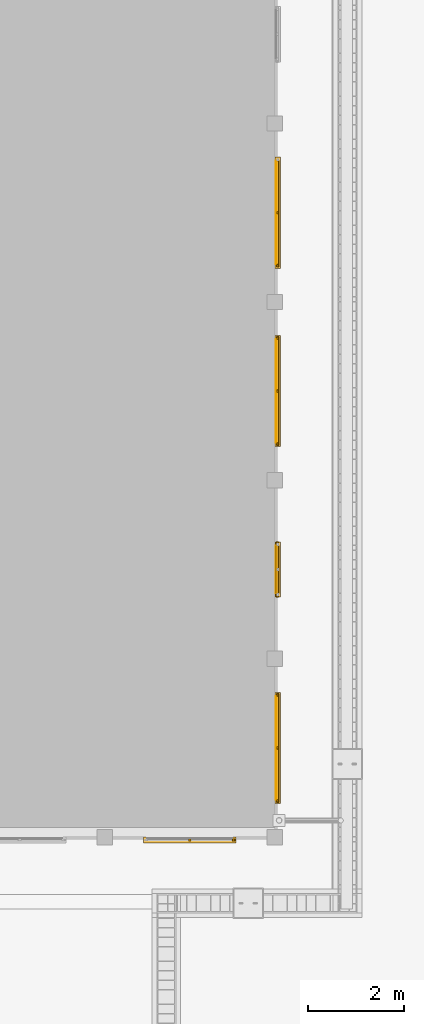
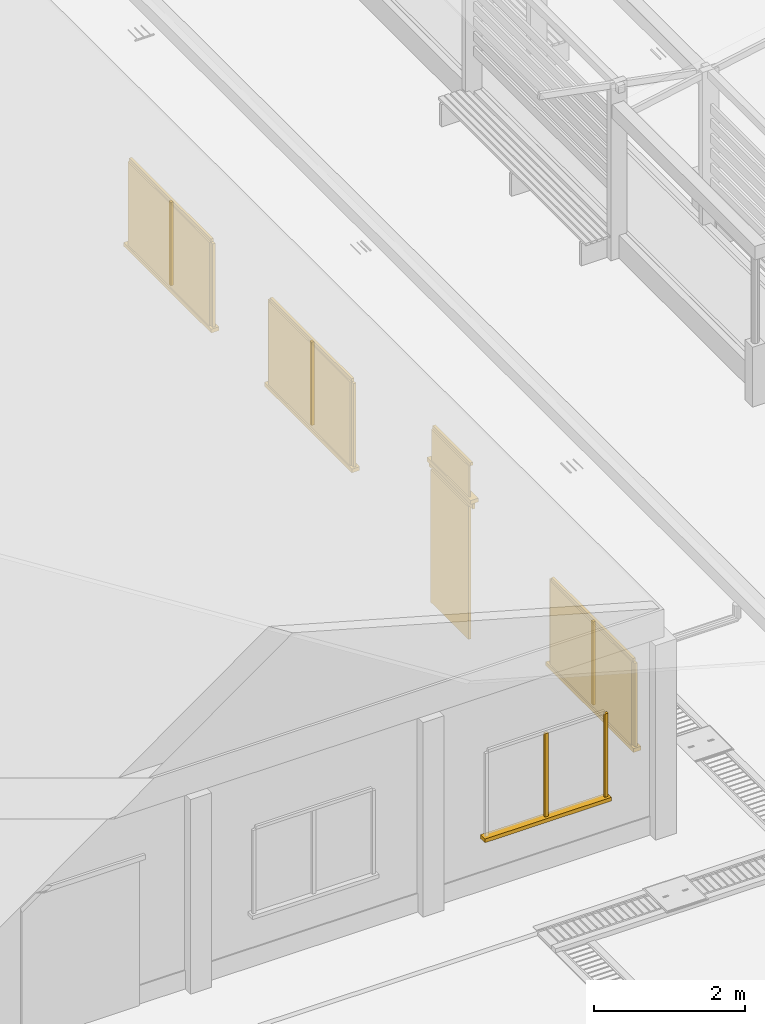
# One storey, part 38 of 151: 23 windows, 2 doors.
"""IFC2X3 building model written with IfcOpenShell, lengths in metres."""

import ifcopenshell
import ifcopenshell.guid

model = None  # the IFC model being written
_history = None  # IfcOwnerHistory: only IFC2X3 demands one
_inside = {}  # id of a spatial element -> (the spatial element, [elements in it])
_under = {}  # id of a project, library or spatial element -> (it, [spatial elements below it])
_declared = {}  # id of a project -> (the project, [libraries it declares])
_typed = {}  # id of a type object -> (the type object, [elements of that type])
_made_of = {}  # id of a material, layer set ... -> (it, [elements and type objects made of it])


def new_model(schema):
    """Start an empty IFC model of exactly this schema.

    Asked for "IFC4X3", IfcOpenShell would pick the latest addendum, in which some entities
    have other attributes; the version numbers below select the first issue.
    IFC2X3 requires an IfcOwnerHistory on every rooted entity: one is made here for all.
    """
    global model, _history
    if schema == "IFC4X3":
        model = ifcopenshell.file(schema_version=(4, 3, 0, 0))
    else:
        model = ifcopenshell.file(schema=schema)
    _inside.clear()
    _under.clear()
    _declared.clear()
    _typed.clear()
    _made_of.clear()
    _history = None
    if model.schema == "IFC2X3":
        org = make("IfcOrganization", Name="unknown")
        user = make(
            "IfcPersonAndOrganization",
            ThePerson=make("IfcPerson", FamilyName="unknown"),
            TheOrganization=org,
        )
        app = make(
            "IfcApplication",
            ApplicationDeveloper=org,
            Version="unknown",
            ApplicationFullName="unknown",
            ApplicationIdentifier="unknown",
        )
        _history = make(
            "IfcOwnerHistory",
            OwningUser=user,
            OwningApplication=app,
            ChangeAction="ADDED",
            CreationDate=0,
        )
    return model


def make(cls, **values):
    """One entity of the class cls with the attributes given. An attribute that is None is left unset."""
    return model.create_entity(
        cls, **{name: value for name, value in values.items() if value is not None}
    )


def rooted(cls, **values):
    """An entity with a GlobalId (a new one), such as an element, a storey or a relation."""
    return make(cls, GlobalId=ifcopenshell.guid.new(), OwnerHistory=_history, **values)


def si_unit(unit_type, name, prefix=None):
    """IfcSIUnit, for example si_unit("LENGTHUNIT", "METRE", prefix="MILLI")."""
    return make("IfcSIUnit", UnitType=unit_type, Prefix=prefix, Name=name)


def assignment(units):
    """IfcUnitAssignment: the units of a project."""
    return None if units is None else make("IfcUnitAssignment", Units=units)


def point(xyz):
    """IfcCartesianPoint."""
    return None if xyz is None else make("IfcCartesianPoint", Coordinates=xyz)


def direction(xyz):
    """IfcDirection."""
    return None if xyz is None else make("IfcDirection", DirectionRatios=xyz)


def frame(location, z_axis=None, x_axis=None):
    """IfcAxis2Placement3D, a coordinate frame: its origin and axes. An axis left out is left unset."""
    return make(
        "IfcAxis2Placement3D",
        Location=point(location),
        Axis=direction(z_axis),
        RefDirection=direction(x_axis),
    )


def origin():
    """The frame at (0, 0, 0) with its axes left unset."""
    return frame((0.0, 0.0, 0.0))


def origin_with_axes():
    """The frame at (0, 0, 0) with the z axis (0, 0, 1) and the x axis (1, 0, 0) written out."""
    return frame((0.0, 0.0, 0.0), z_axis=(0.0, 0.0, 1.0), x_axis=(1.0, 0.0, 0.0))


def place(relative_to, where):
    """IfcLocalPlacement: puts the frame where relative to a parent placement (None: the world)."""
    return make(
        "IfcLocalPlacement", PlacementRelTo=relative_to, RelativePlacement=where
    )


def context(
    kind, dimensions, precision=None, world=None, true_north=None, identifier=None
):
    """IfcGeometricRepresentationContext, for example the 3D "Model" context."""
    return make(
        "IfcGeometricRepresentationContext",
        ContextIdentifier=identifier,
        ContextType=kind,
        CoordinateSpaceDimension=dimensions,
        Precision=precision,
        WorldCoordinateSystem=world,
        TrueNorth=true_north,
    )


def subcontext(parent, identifier, kind, view, scale=None):
    """IfcGeometricRepresentationSubContext, for example "Body" below "Model"."""
    return make(
        "IfcGeometricRepresentationSubContext",
        ContextIdentifier=identifier,
        ContextType=kind,
        ParentContext=parent,
        TargetScale=scale,
        TargetView=view,
    )


def project(units=None, contexts=None):
    """IfcProject with its units and contexts."""
    return rooted(
        "IfcProject",
        Name="project",
        RepresentationContexts=contexts,
        UnitsInContext=assignment(units),
    )


def spatial(cls, under=None, at=None, **own):
    """A site, building, storey or space (cls), placed at a placement, below another one or the project."""
    s = rooted(cls, ObjectPlacement=at, **own)
    if under is not None:
        _under.setdefault(under.id(), (under, []))[1].append(s)
    return s


def faces_of(points, faces, orient=None, outer=None):
    """IfcFace entities. A face is a list of loops; a loop is a list of indices into points, from 0.

    orient and outer hold one flag for each loop. By default every Orientation is true, the
    first loop of a face is its IfcFaceOuterBound and the others are IfcFaceBound.
    """
    made = []
    for i, loops in enumerate(faces):
        bounds = []
        for j, loop in enumerate(loops):
            is_outer = j == 0 if outer is None else outer[i][j]
            bounds.append(
                make(
                    "IfcFaceOuterBound" if is_outer else "IfcFaceBound",
                    Bound=make("IfcPolyLoop", Polygon=[points[k] for k in loop]),
                    Orientation=True if orient is None else orient[i][j],
                )
            )
        made.append(make("IfcFace", Bounds=bounds))
    return made


def faceted_brep(points, faces, orient=None, outer=None, voids=None):
    """IfcFacetedBrep: a solid bounded by flat faces; with voids (closed shells), ...WithVoids."""
    shared = [point(p) for p in points]
    hull = make("IfcClosedShell", CfsFaces=faces_of(shared, faces, orient, outer))
    if voids is None:
        return make("IfcFacetedBrep", Outer=hull)
    return make(
        "IfcFacetedBrepWithVoids",
        Outer=hull,
        Voids=[
            make(cls, CfsFaces=faces_of(shared, fs, o, b)) for cls, fs, o, b in voids
        ],
    )


def shape(context_of_items, identifier, shape_type, items):
    """IfcShapeRepresentation: the items that make up one representation, for example the "Body"."""
    return make(
        "IfcShapeRepresentation",
        ContextOfItems=context_of_items,
        RepresentationIdentifier=identifier,
        RepresentationType=shape_type,
        Items=items,
    )


def made_of(thing, what):
    """Note that an element or type object is made of a material, layer set ...; save() writes the relation."""
    if what is not None:
        _made_of.setdefault(what.id(), (what, []))[1].append(thing)
    return thing


def element(
    cls,
    number,
    at=None,
    inside=None,
    cuts=None,
    type_object=None,
    material=None,
    context=None,
    identifier="Body",
    shape_type=None,
    held_by="IfcProductDefinitionShape",
    body=None,
    shapes=None,
    **own,
):
    """One element of the class cls, such as IfcWall. Its Tag is "e" and its number.

    at: its placement. inside: the storey or other place that contains it. cuts: it is an
    opening in that element (IfcRelVoidsElement). A single representation is given by context,
    identifier, shape_type and body (its items); several are given by shapes. held_by: the class
    of the entity that holds the representations. save() writes the other relations.
    """
    e = rooted(cls, Tag="e%d" % number, ObjectPlacement=at, **own)
    if body is not None:
        shapes = [shape(context, identifier, shape_type, body)]
    if shapes is not None:
        e.Representation = make(held_by, Representations=shapes)
    if inside is not None:
        _inside.setdefault(inside.id(), (inside, []))[1].append(e)
    if cuts is not None:
        rooted(
            "IfcRelVoidsElement", RelatingBuildingElement=cuts, RelatedOpeningElement=e
        )
    if type_object is not None:
        _typed.setdefault(type_object.id(), (type_object, []))[1].append(e)
    return made_of(e, material)


def aggregate(whole, parts):
    """IfcRelAggregates: a whole, such as a stair, and the parts it consists of."""
    return rooted("IfcRelAggregates", RelatingObject=whole, RelatedObjects=parts)


def save(model, path):
    """Write the relations noted so far, then the file.

    IfcRelAggregates (storeys below a building ...), IfcRelContainedInSpatialStructure (elements
    in a storey), IfcRelDefinesByType, IfcRelAssociatesMaterial and IfcRelDeclares: one each for
    every whole, place, type object, material and project.
    """
    for whole, parts in _under.values():
        aggregate(whole, parts)
    for where, things in _inside.values():
        rooted(
            "IfcRelContainedInSpatialStructure",
            RelatedElements=things,
            RelatingStructure=where,
        )
    for kind, things in _typed.values():
        rooted("IfcRelDefinesByType", RelatedObjects=things, RelatingType=kind)
    for what, things in _made_of.values():
        rooted("IfcRelAssociatesMaterial", RelatedObjects=things, RelatingMaterial=what)
    for by, libraries in _declared.values():
        rooted("IfcRelDeclares", RelatingContext=by, RelatedDefinitions=libraries)
    model.write(path)


model = new_model("IFC2X3")

# Units and contexts
model_context = context("Model", 3, precision=1e-05, world=origin_with_axes())
body_context = subcontext(model_context, "Body", "Model", "MODEL_VIEW")
ifc_project = project(units=[si_unit("LENGTHUNIT", "METRE"), si_unit("AREAUNIT", "SQUARE_METRE"), si_unit("VOLUMEUNIT", "CUBIC_METRE"), si_unit("PLANEANGLEUNIT", "RADIAN")], contexts=[model_context])

# Site, building, storey
site_placement = place(None, origin_with_axes())
site = spatial("IfcSite", under=ifc_project, at=site_placement, Name="Predio Los Mangos - Morales, San Martín", CompositionType="ELEMENT")
building_placement = place(site_placement, origin())
building = spatial("IfcBuilding", under=site, at=building_placement, Name="Hogar de Refugio Temporal", CompositionType="ELEMENT")
storey_placement = place(building_placement, origin())
storey = spatial("IfcBuildingStorey", under=building, at=storey_placement, Name="NIVEL 1 (NPT +0.00)", CompositionType="ELEMENT", Elevation=0.0)

# Windows
window_1_placement = place(storey_placement, origin())
element("IfcWindow", 1, at=window_1_placement, inside=storey, Name="E-01_vg4_m", ObjectType="Ventana", context=body_context, shape_type="Brep", body=[
    faceted_brep([(30.71, 26.22, 1.05), (30.71, 26.26, 1.05), (30.76, 26.26, 1.05), (30.76, 26.22, 1.05), (30.71, 26.22, 2.4), (30.76, 26.22, 2.4), (30.76, 26.26, 2.4), (30.71, 26.26, 2.4)], [[[0, 1, 2, 3]], [[4, 5, 6, 7]], [[0, 3, 5, 4]], [[3, 2, 6, 5]], [[2, 1, 7, 6]], [[1, 0, 4, 7]]]),
])
window_2_placement = place(storey_placement, origin())
element("IfcWindow", 2, at=window_2_placement, inside=storey, Name="E-01_vg4_m", ObjectType="Ventana", context=body_context, shape_type="Brep", body=[
    faceted_brep([(29.795, 26.22, 1.05), (29.795, 26.26, 1.05), (29.845, 26.26, 1.05), (29.845, 26.22, 1.05), (29.795, 26.22, 2.4), (29.845, 26.22, 2.4), (29.845, 26.26, 2.4), (29.795, 26.26, 2.4)], [[[0, 1, 2, 3]], [[4, 5, 6, 7]], [[0, 3, 5, 4]], [[3, 2, 6, 5]], [[2, 1, 7, 6]], [[1, 0, 4, 7]]]),
])
window_3_placement = place(storey_placement, origin())
element("IfcWindow", 3, at=window_3_placement, inside=storey, Name="E-01_vg4_alf", ObjectType="Ventana", context=body_context, shape_type="Brep", body=[
    faceted_brep([(28.85, 26.3, 0.99), (28.85, 26.18, 0.99), (30.79, 26.18, 0.99), (30.79, 26.3, 0.99), (28.85, 26.3, 1.05), (30.79, 26.3, 1.05), (30.79, 26.18, 1.05), (28.85, 26.18, 1.05)], [[[0, 1, 2, 3]], [[4, 5, 6, 7]], [[0, 3, 5, 4]], [[3, 2, 6, 5]], [[2, 1, 7, 6]], [[1, 0, 4, 7]]]),
])
window_4_placement = place(storey_placement, origin())
element("IfcWindow", 4, at=window_4_placement, inside=storey, Name="E-01_v0_vid", ObjectType="Ventana", context=body_context, shape_type="Brep", body=[
    faceted_brep([(31.62, 27.084, 1.05), (31.62, 29.2493, 1.05), (31.64, 29.2493, 1.05), (31.64, 27.084, 1.05), (31.62, 27.084, 2.4), (31.64, 27.084, 2.4), (31.64, 29.2493, 2.4), (31.62, 29.2493, 2.4)], [[[0, 1, 2, 3]], [[4, 5, 6, 7]], [[0, 3, 5, 4]], [[3, 2, 6, 5]], [[2, 1, 7, 6]], [[1, 0, 4, 7]]]),
])
window_5_placement = place(storey_placement, origin())
element("IfcWindow", 5, at=window_5_placement, inside=storey, Name="E-01_v0_m", ObjectType="Ventana", context=body_context, shape_type="Brep", body=[
    faceted_brep([(31.64, 27.034, 1.05), (31.64, 27.084, 1.05), (31.68, 27.084, 1.05), (31.68, 27.034, 1.05), (31.64, 27.034, 2.4), (31.68, 27.034, 2.4), (31.68, 27.084, 2.4), (31.64, 27.084, 2.4)], [[[0, 1, 2, 3]], [[4, 5, 6, 7]], [[0, 3, 5, 4]], [[3, 2, 6, 5]], [[2, 1, 7, 6]], [[1, 0, 4, 7]]]),
])
window_6_placement = place(storey_placement, origin())
element("IfcWindow", 6, at=window_6_placement, inside=storey, Name="E-01_v0_m", ObjectType="Ventana", context=body_context, shape_type="Brep", body=[
    faceted_brep([(31.64, 29.2493, 1.05), (31.64, 29.2993, 1.05), (31.68, 29.2993, 1.05), (31.68, 29.2493, 1.05), (31.64, 29.2493, 2.4), (31.68, 29.2493, 2.4), (31.68, 29.2993, 2.4), (31.64, 29.2993, 2.4)], [[[0, 1, 2, 3]], [[4, 5, 6, 7]], [[0, 3, 5, 4]], [[3, 2, 6, 5]], [[2, 1, 7, 6]], [[1, 0, 4, 7]]]),
])
window_7_placement = place(storey_placement, origin())
element("IfcWindow", 7, at=window_7_placement, inside=storey, Name="E-01_v0_m", ObjectType="Ventana", context=body_context, shape_type="Brep", body=[
    faceted_brep([(31.64, 27.084, 2.4), (31.64, 29.2493, 2.4), (31.68, 29.2493, 2.4), (31.68, 27.084, 2.4), (31.64, 27.084, 2.45), (31.68, 27.084, 2.45), (31.68, 29.2493, 2.45), (31.64, 29.2493, 2.45)], [[[0, 1, 2, 3]], [[4, 5, 6, 7]], [[0, 3, 5, 4]], [[3, 2, 6, 5]], [[2, 1, 7, 6]], [[1, 0, 4, 7]]]),
])
window_8_placement = place(storey_placement, origin())
element("IfcWindow", 8, at=window_8_placement, inside=storey, Name="E-01_v0_m", ObjectType="Ventana", context=body_context, shape_type="Brep", body=[
    faceted_brep([(31.64, 28.1417, 1.05), (31.64, 28.1917, 1.05), (31.68, 28.1917, 1.05), (31.68, 28.1417, 1.05), (31.64, 28.1417, 2.4), (31.68, 28.1417, 2.4), (31.68, 28.1917, 2.4), (31.64, 28.1917, 2.4)], [[[0, 1, 2, 3]], [[4, 5, 6, 7]], [[0, 3, 5, 4]], [[3, 2, 6, 5]], [[2, 1, 7, 6]], [[1, 0, 4, 7]]]),
])
window_9_placement = place(storey_placement, origin())
element("IfcWindow", 9, at=window_9_placement, inside=storey, Name="E-01_v0_alf", ObjectType="Ventana", context=body_context, shape_type="Brep", body=[
    faceted_brep([(31.6, 27.004, 0.99), (31.6, 29.3293, 0.99), (31.72, 29.3293, 0.99), (31.72, 27.004, 0.99), (31.6, 27.004, 1.05), (31.72, 27.004, 1.05), (31.72, 29.3293, 1.05), (31.6, 29.3293, 1.05)], [[[0, 1, 2, 3]], [[4, 5, 6, 7]], [[0, 3, 5, 4]], [[3, 2, 6, 5]], [[2, 1, 7, 6]], [[1, 0, 4, 7]]]),
])

# Doors
door_1_placement = place(storey_placement, origin())
element("IfcDoor", 10, at=door_1_placement, inside=storey, Name="E-01_p1", ObjectType="Puerta", context=body_context, shape_type="Brep", body=[
    faceted_brep([(31.61, 31.4, 0.15), (31.61, 32.4, 0.15), (31.65, 32.4, 0.15), (31.65, 31.4, 0.15), (31.61, 31.4, 2.3), (31.65, 31.4, 2.3), (31.65, 32.4, 2.3), (31.61, 32.4, 2.3)], [[[0, 1, 2, 3]], [[4, 5, 6, 7]], [[0, 3, 5, 4]], [[3, 2, 6, 5]], [[2, 1, 7, 6]], [[1, 0, 4, 7]]]),
])
door_2_placement = place(storey_placement, origin())
element("IfcDoor", 11, at=door_2_placement, inside=storey, Name="E-01_p1_marco", ObjectType="Puerta", context=body_context, shape_type="Brep", body=[
    faceted_brep([(31.63, 31.32, 2.3), (31.63, 32.48, 2.3), (31.67, 32.48, 2.3), (31.67, 31.32, 2.3), (31.63, 31.32, 2.38), (31.67, 31.32, 2.38), (31.67, 32.48, 2.38), (31.63, 32.48, 2.38)], [[[0, 1, 2, 3]], [[4, 5, 6, 7]], [[0, 3, 5, 4]], [[3, 2, 6, 5]], [[2, 1, 7, 6]], [[1, 0, 4, 7]]]),
])

# Windows
window_10_placement = place(storey_placement, origin())
element("IfcWindow", 12, at=window_10_placement, inside=storey, Name="E-01_vt1_vid", ObjectType="Ventana", context=body_context, shape_type="Brep", body=[
    faceted_brep([(31.62, 31.4, 2.45), (31.62, 32.4, 2.45), (31.64, 32.4, 2.45), (31.64, 31.4, 2.45), (31.62, 31.4, 2.95), (31.64, 31.4, 2.95), (31.64, 32.4, 2.95), (31.62, 32.4, 2.95)], [[[0, 1, 2, 3]], [[4, 5, 6, 7]], [[0, 3, 5, 4]], [[3, 2, 6, 5]], [[2, 1, 7, 6]], [[1, 0, 4, 7]]]),
])
window_11_placement = place(storey_placement, origin())
element("IfcWindow", 13, at=window_11_placement, inside=storey, Name="E-01_vt1_m", ObjectType="Ventana", context=body_context, shape_type="Brep", body=[
    faceted_brep([(31.64, 31.4, 2.95), (31.64, 32.4, 2.95), (31.68, 32.4, 2.95), (31.68, 31.4, 2.95), (31.64, 31.4, 3.0), (31.68, 31.4, 3.0), (31.68, 32.4, 3.0), (31.64, 32.4, 3.0)], [[[0, 1, 2, 3]], [[4, 5, 6, 7]], [[0, 3, 5, 4]], [[3, 2, 6, 5]], [[2, 1, 7, 6]], [[1, 0, 4, 7]]]),
])
window_12_placement = place(storey_placement, origin())
element("IfcWindow", 14, at=window_12_placement, inside=storey, Name="E-01_vt1_alf", ObjectType="Ventana", context=body_context, shape_type="Brep", body=[
    faceted_brep([(31.6, 31.32, 2.39), (31.6, 32.48, 2.39), (31.72, 32.48, 2.39), (31.72, 31.32, 2.39), (31.6, 31.32, 2.45), (31.72, 31.32, 2.45), (31.72, 32.48, 2.45), (31.6, 32.48, 2.45)], [[[0, 1, 2, 3]], [[4, 5, 6, 7]], [[0, 3, 5, 4]], [[3, 2, 6, 5]], [[2, 1, 7, 6]], [[1, 0, 4, 7]]]),
])
window_13_placement = place(storey_placement, origin())
element("IfcWindow", 15, at=window_13_placement, inside=storey, Name="E-01_v2_vid", ObjectType="Ventana", context=body_context, shape_type="Brep", body=[
    faceted_brep([(31.62, 34.5507, 1.05), (31.62, 36.716, 1.05), (31.64, 36.716, 1.05), (31.64, 34.5507, 1.05), (31.62, 34.5507, 2.4), (31.64, 34.5507, 2.4), (31.64, 36.716, 2.4), (31.62, 36.716, 2.4)], [[[0, 1, 2, 3]], [[4, 5, 6, 7]], [[0, 3, 5, 4]], [[3, 2, 6, 5]], [[2, 1, 7, 6]], [[1, 0, 4, 7]]]),
])
window_14_placement = place(storey_placement, origin())
element("IfcWindow", 16, at=window_14_placement, inside=storey, Name="E-01_v2_m", ObjectType="Ventana", context=body_context, shape_type="Brep", body=[
    faceted_brep([(31.64, 34.5007, 1.05), (31.64, 34.5507, 1.05), (31.68, 34.5507, 1.05), (31.68, 34.5007, 1.05), (31.64, 34.5007, 2.4), (31.68, 34.5007, 2.4), (31.68, 34.5507, 2.4), (31.64, 34.5507, 2.4)], [[[0, 1, 2, 3]], [[4, 5, 6, 7]], [[0, 3, 5, 4]], [[3, 2, 6, 5]], [[2, 1, 7, 6]], [[1, 0, 4, 7]]]),
])
window_15_placement = place(storey_placement, origin())
element("IfcWindow", 17, at=window_15_placement, inside=storey, Name="E-01_v2_m", ObjectType="Ventana", context=body_context, shape_type="Brep", body=[
    faceted_brep([(31.64, 36.716, 1.05), (31.64, 36.766, 1.05), (31.68, 36.766, 1.05), (31.68, 36.716, 1.05), (31.64, 36.716, 2.4), (31.68, 36.716, 2.4), (31.68, 36.766, 2.4), (31.64, 36.766, 2.4)], [[[0, 1, 2, 3]], [[4, 5, 6, 7]], [[0, 3, 5, 4]], [[3, 2, 6, 5]], [[2, 1, 7, 6]], [[1, 0, 4, 7]]]),
])
window_16_placement = place(storey_placement, origin())
element("IfcWindow", 18, at=window_16_placement, inside=storey, Name="E-01_v2_m", ObjectType="Ventana", context=body_context, shape_type="Brep", body=[
    faceted_brep([(31.64, 34.5507, 2.4), (31.64, 36.716, 2.4), (31.68, 36.716, 2.4), (31.68, 34.5507, 2.4), (31.64, 34.5507, 2.45), (31.68, 34.5507, 2.45), (31.68, 36.716, 2.45), (31.64, 36.716, 2.45)], [[[0, 1, 2, 3]], [[4, 5, 6, 7]], [[0, 3, 5, 4]], [[3, 2, 6, 5]], [[2, 1, 7, 6]], [[1, 0, 4, 7]]]),
])
window_17_placement = place(storey_placement, origin())
element("IfcWindow", 19, at=window_17_placement, inside=storey, Name="E-01_v2_m", ObjectType="Ventana", context=body_context, shape_type="Brep", body=[
    faceted_brep([(31.64, 35.6083, 1.05), (31.64, 35.6583, 1.05), (31.68, 35.6583, 1.05), (31.68, 35.6083, 1.05), (31.64, 35.6083, 2.4), (31.68, 35.6083, 2.4), (31.68, 35.6583, 2.4), (31.64, 35.6583, 2.4)], [[[0, 1, 2, 3]], [[4, 5, 6, 7]], [[0, 3, 5, 4]], [[3, 2, 6, 5]], [[2, 1, 7, 6]], [[1, 0, 4, 7]]]),
])
window_18_placement = place(storey_placement, origin())
element("IfcWindow", 20, at=window_18_placement, inside=storey, Name="E-01_v2_alf", ObjectType="Ventana", context=body_context, shape_type="Brep", body=[
    faceted_brep([(31.6, 34.4707, 0.99), (31.6, 36.796, 0.99), (31.72, 36.796, 0.99), (31.72, 34.4707, 0.99), (31.6, 34.4707, 1.05), (31.72, 34.4707, 1.05), (31.72, 36.796, 1.05), (31.6, 36.796, 1.05)], [[[0, 1, 2, 3]], [[4, 5, 6, 7]], [[0, 3, 5, 4]], [[3, 2, 6, 5]], [[2, 1, 7, 6]], [[1, 0, 4, 7]]]),
])
window_19_placement = place(storey_placement, origin())
element("IfcWindow", 21, at=window_19_placement, inside=storey, Name="E-01_v3_vid", ObjectType="Ventana", context=body_context, shape_type="Brep", body=[
    faceted_brep([(31.62, 38.284, 1.05), (31.62, 40.4493, 1.05), (31.64, 40.4493, 1.05), (31.64, 38.284, 1.05), (31.62, 38.284, 2.4), (31.64, 38.284, 2.4), (31.64, 40.4493, 2.4), (31.62, 40.4493, 2.4)], [[[0, 1, 2, 3]], [[4, 5, 6, 7]], [[0, 3, 5, 4]], [[3, 2, 6, 5]], [[2, 1, 7, 6]], [[1, 0, 4, 7]]]),
])
window_20_placement = place(storey_placement, origin())
element("IfcWindow", 22, at=window_20_placement, inside=storey, Name="E-01_v3_m", ObjectType="Ventana", context=body_context, shape_type="Brep", body=[
    faceted_brep([(31.64, 38.234, 1.05), (31.64, 38.284, 1.05), (31.68, 38.284, 1.05), (31.68, 38.234, 1.05), (31.64, 38.234, 2.4), (31.68, 38.234, 2.4), (31.68, 38.284, 2.4), (31.64, 38.284, 2.4)], [[[0, 1, 2, 3]], [[4, 5, 6, 7]], [[0, 3, 5, 4]], [[3, 2, 6, 5]], [[2, 1, 7, 6]], [[1, 0, 4, 7]]]),
])
window_21_placement = place(storey_placement, origin())
element("IfcWindow", 23, at=window_21_placement, inside=storey, Name="E-01_v3_m", ObjectType="Ventana", context=body_context, shape_type="Brep", body=[
    faceted_brep([(31.64, 38.284, 2.4), (31.64, 40.4493, 2.4), (31.68, 40.4493, 2.4), (31.68, 38.284, 2.4), (31.64, 38.284, 2.45), (31.68, 38.284, 2.45), (31.68, 40.4493, 2.45), (31.64, 40.4493, 2.45)], [[[0, 1, 2, 3]], [[4, 5, 6, 7]], [[0, 3, 5, 4]], [[3, 2, 6, 5]], [[2, 1, 7, 6]], [[1, 0, 4, 7]]]),
])
window_22_placement = place(storey_placement, origin())
element("IfcWindow", 24, at=window_22_placement, inside=storey, Name="E-01_v3_m", ObjectType="Ventana", context=body_context, shape_type="Brep", body=[
    faceted_brep([(31.64, 39.3417, 1.05), (31.64, 39.3917, 1.05), (31.68, 39.3917, 1.05), (31.68, 39.3417, 1.05), (31.64, 39.3417, 2.4), (31.68, 39.3417, 2.4), (31.68, 39.3917, 2.4), (31.64, 39.3917, 2.4)], [[[0, 1, 2, 3]], [[4, 5, 6, 7]], [[0, 3, 5, 4]], [[3, 2, 6, 5]], [[2, 1, 7, 6]], [[1, 0, 4, 7]]]),
])
window_23_placement = place(storey_placement, origin())
element("IfcWindow", 25, at=window_23_placement, inside=storey, Name="E-01_v3_alf", ObjectType="Ventana", context=body_context, shape_type="Brep", body=[
    faceted_brep([(31.6, 38.204, 0.99), (31.6, 40.5293, 0.99), (31.72, 40.5293, 0.99), (31.72, 38.204, 0.99), (31.6, 38.204, 1.05), (31.72, 38.204, 1.05), (31.72, 40.5293, 1.05), (31.6, 40.5293, 1.05)], [[[0, 1, 2, 3]], [[4, 5, 6, 7]], [[0, 3, 5, 4]], [[3, 2, 6, 5]], [[2, 1, 7, 6]], [[1, 0, 4, 7]]]),
])

save(model, "model.ifc")
